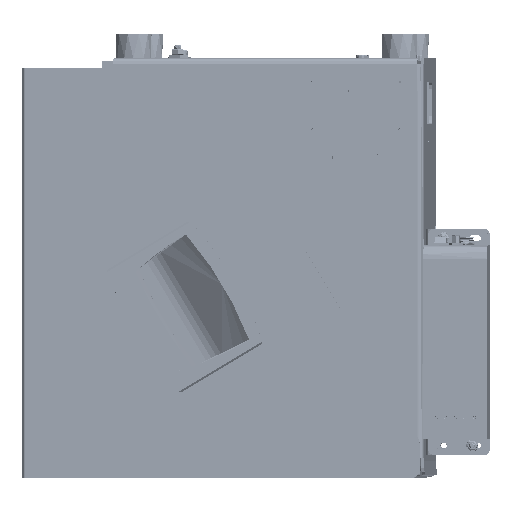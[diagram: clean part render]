
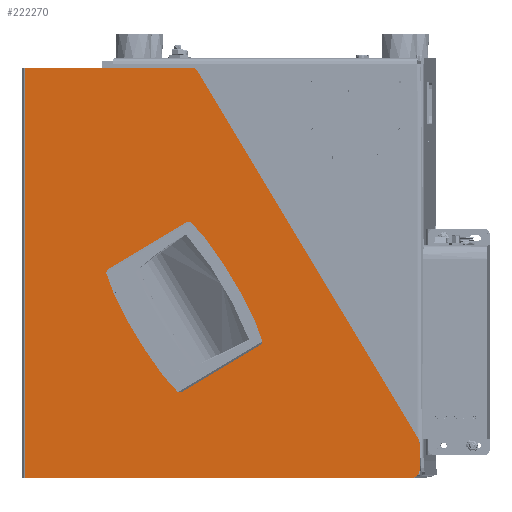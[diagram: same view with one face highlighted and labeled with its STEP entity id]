
A CAD part, front view. The second image highlights one B-rep face of the part: STEP entity #222270.
In plain terms, the highlighted planar face has unit normal (-0.023, -1, 0).
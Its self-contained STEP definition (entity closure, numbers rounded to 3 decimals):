
#22835=LINE('',#406528,#39462);
#22838=LINE('',#406535,#39465);
#22844=LINE('',#406555,#39471);
#22850=LINE('',#406570,#39477);
#22909=LINE('',#406738,#39536);
#23650=LINE('',#409365,#40277);
#23651=LINE('',#409369,#40278);
#23652=LINE('',#409373,#40279);
#23653=LINE('',#409377,#40280);
#23654=LINE('',#409381,#40281);
#23655=LINE('',#409384,#40282);
#39462=VECTOR('',#289261,1000.);
#39465=VECTOR('',#289266,1000.);
#39471=VECTOR('',#289286,1000.);
#39477=VECTOR('',#289300,1000.);
#39536=VECTOR('',#289433,10.);
#40277=VECTOR('',#291572,10.);
#40278=VECTOR('',#291575,10.);
#40279=VECTOR('',#291578,10.);
#40280=VECTOR('',#291581,10.);
#40281=VECTOR('',#291584,10.);
#40282=VECTOR('',#291587,10.);
#46094=FACE_BOUND('',#69420,.T.);
#56357=FACE_OUTER_BOUND('',#69419,.T.);
#69419=EDGE_LOOP('',(#186218,#186219,#186220,#186221,#186222,#186223,#186224,
#186225));
#69420=EDGE_LOOP('',(#186226,#186227,#186228,#186229,#186230,#186231,#186232,
#186233,#186234,#186235,#186236,#186237));
#78649=CIRCLE('',#239878,6.);
#78651=CIRCLE('',#239881,6.);
#78653=CIRCLE('',#239885,6.);
#78971=CIRCLE('',#240623,3.);
#78972=CIRCLE('',#240624,3.);
#78973=CIRCLE('',#240625,367.464);
#78974=CIRCLE('',#240626,3.);
#78975=CIRCLE('',#240627,3.);
#78976=CIRCLE('',#240628,367.464);
#97943=VERTEX_POINT('',#406525);
#97944=VERTEX_POINT('',#406527);
#97946=VERTEX_POINT('',#406533);
#97947=VERTEX_POINT('',#406534);
#97950=VERTEX_POINT('',#406542);
#97952=VERTEX_POINT('',#406548);
#97954=VERTEX_POINT('',#406554);
#97958=VERTEX_POINT('',#406564);
#98719=VERTEX_POINT('',#409361);
#98720=VERTEX_POINT('',#409362);
#98721=VERTEX_POINT('',#409364);
#98722=VERTEX_POINT('',#409366);
#98723=VERTEX_POINT('',#409368);
#98724=VERTEX_POINT('',#409370);
#98725=VERTEX_POINT('',#409372);
#98726=VERTEX_POINT('',#409374);
#98727=VERTEX_POINT('',#409376);
#98728=VERTEX_POINT('',#409378);
#98729=VERTEX_POINT('',#409380);
#98730=VERTEX_POINT('',#409382);
#127413=EDGE_CURVE('',#97943,#97944,#22835,.T.);
#127416=EDGE_CURVE('',#97946,#97947,#22838,.T.);
#127420=EDGE_CURVE('',#97950,#97946,#78649,.T.);
#127423=EDGE_CURVE('',#97943,#97952,#78651,.T.);
#127426=EDGE_CURVE('',#97952,#97954,#22844,.T.);
#127431=EDGE_CURVE('',#97954,#97958,#78653,.T.);
#127434=EDGE_CURVE('',#97958,#97950,#22850,.T.);
#127511=EDGE_CURVE('',#97944,#97947,#22909,.T.);
#128610=EDGE_CURVE('',#98719,#98720,#78971,.T.);
#128611=EDGE_CURVE('',#98720,#98721,#23650,.T.);
#128612=EDGE_CURVE('',#98721,#98722,#78972,.T.);
#128613=EDGE_CURVE('',#98722,#98723,#23651,.T.);
#128614=EDGE_CURVE('',#98723,#98724,#78973,.T.);
#128615=EDGE_CURVE('',#98724,#98725,#23652,.T.);
#128616=EDGE_CURVE('',#98725,#98726,#78974,.T.);
#128617=EDGE_CURVE('',#98726,#98727,#23653,.T.);
#128618=EDGE_CURVE('',#98727,#98728,#78975,.T.);
#128619=EDGE_CURVE('',#98728,#98729,#23654,.T.);
#128620=EDGE_CURVE('',#98729,#98730,#78976,.T.);
#128621=EDGE_CURVE('',#98730,#98719,#23655,.T.);
#186218=ORIENTED_EDGE('',*,*,#127511,.F.);
#186219=ORIENTED_EDGE('',*,*,#127413,.F.);
#186220=ORIENTED_EDGE('',*,*,#127423,.T.);
#186221=ORIENTED_EDGE('',*,*,#127426,.T.);
#186222=ORIENTED_EDGE('',*,*,#127431,.T.);
#186223=ORIENTED_EDGE('',*,*,#127434,.T.);
#186224=ORIENTED_EDGE('',*,*,#127420,.T.);
#186225=ORIENTED_EDGE('',*,*,#127416,.T.);
#186226=ORIENTED_EDGE('',*,*,#128610,.T.);
#186227=ORIENTED_EDGE('',*,*,#128611,.T.);
#186228=ORIENTED_EDGE('',*,*,#128612,.T.);
#186229=ORIENTED_EDGE('',*,*,#128613,.T.);
#186230=ORIENTED_EDGE('',*,*,#128614,.T.);
#186231=ORIENTED_EDGE('',*,*,#128615,.T.);
#186232=ORIENTED_EDGE('',*,*,#128616,.T.);
#186233=ORIENTED_EDGE('',*,*,#128617,.T.);
#186234=ORIENTED_EDGE('',*,*,#128618,.T.);
#186235=ORIENTED_EDGE('',*,*,#128619,.T.);
#186236=ORIENTED_EDGE('',*,*,#128620,.T.);
#186237=ORIENTED_EDGE('',*,*,#128621,.T.);
#201160=PLANE('',#240622);
#222270=ADVANCED_FACE('',(#56357,#46094),#201160,.T.);
#239878=AXIS2_PLACEMENT_3D('',#406543,#289272,#289273);
#239881=AXIS2_PLACEMENT_3D('',#406549,#289279,#289280);
#239885=AXIS2_PLACEMENT_3D('',#406565,#289293,#289294);
#240622=AXIS2_PLACEMENT_3D('',#409360,#291568,#291569);
#240623=AXIS2_PLACEMENT_3D('',#409363,#291570,#291571);
#240624=AXIS2_PLACEMENT_3D('',#409367,#291573,#291574);
#240625=AXIS2_PLACEMENT_3D('',#409371,#291576,#291577);
#240626=AXIS2_PLACEMENT_3D('',#409375,#291579,#291580);
#240627=AXIS2_PLACEMENT_3D('',#409379,#291582,#291583);
#240628=AXIS2_PLACEMENT_3D('',#409383,#291585,#291586);
#289261=DIRECTION('',(-1.,0.023,0.));
#289266=DIRECTION('',(-1.,0.023,0.));
#289272=DIRECTION('center_axis',(-0.023,-1.,
0.));
#289273=DIRECTION('ref_axis',(0.,0.,
-1.));
#289279=DIRECTION('center_axis',(-0.023,-1.,
0.));
#289280=DIRECTION('ref_axis',(0.,0.,
-1.));
#289286=DIRECTION('',(0.,0.,1.));
#289293=DIRECTION('center_axis',(-0.023,-1.,
0.));
#289294=DIRECTION('ref_axis',(0.,0.,
1.));
#289300=DIRECTION('',(-0.515,0.012,0.857));
#289433=DIRECTION('',(0.,0.,1.));
#291568=DIRECTION('center_axis',(-0.023,-1.,
0.));
#291569=DIRECTION('ref_axis',(0.,0.,
1.));
#291570=DIRECTION('center_axis',(0.023,1.,0.));
#291571=DIRECTION('ref_axis',(0.515,-0.012,-0.857));
#291572=DIRECTION('',(-0.857,0.02,-0.515));
#291573=DIRECTION('center_axis',(0.023,1.,0.));
#291574=DIRECTION('ref_axis',(0.515,-0.012,-0.857));
#291575=DIRECTION('',(-0.669,0.016,0.743));
#291576=DIRECTION('center_axis',(0.023,1.,0.));
#291577=DIRECTION('ref_axis',(0.515,-0.012,-0.857));
#291578=DIRECTION('',(-0.342,0.008,0.94));
#291579=DIRECTION('center_axis',(0.023,1.,0.));
#291580=DIRECTION('ref_axis',(0.515,-0.012,-0.857));
#291581=DIRECTION('',(0.857,-0.02,0.515));
#291582=DIRECTION('center_axis',(0.023,1.,0.));
#291583=DIRECTION('ref_axis',(0.515,-0.012,-0.857));
#291584=DIRECTION('',(0.669,-0.016,-0.743));
#291585=DIRECTION('center_axis',(0.023,1.,0.));
#291586=DIRECTION('ref_axis',(0.515,-0.012,-0.857));
#291587=DIRECTION('',(0.342,-0.008,-0.94));
#406525=CARTESIAN_POINT('',(78.075,-272.554,-349.5));
#406527=CARTESIAN_POINT('',(-246.336,-264.973,-349.5));
#406528=CARTESIAN_POINT('',(-149.269,-267.241,-349.5));
#406533=CARTESIAN_POINT('',(-107.269,-268.223,-5.5));
#406534=CARTESIAN_POINT('',(-246.336,-264.973,-5.5));
#406535=CARTESIAN_POINT('',(-149.269,-267.241,-5.5));
#406542=CARTESIAN_POINT('',(-102.127,-268.343,-8.41));
#406543=CARTESIAN_POINT('Origin',(-107.269,-268.223,-11.5));
#406548=CARTESIAN_POINT('',(84.074,-272.694,-343.5));
#406549=CARTESIAN_POINT('Origin',(78.075,-272.554,-343.5));
#406554=CARTESIAN_POINT('',(84.074,-272.694,-320.048));
#406555=CARTESIAN_POINT('',(84.074,-272.694,-5.5));
#406564=CARTESIAN_POINT('',(83.217,-272.674,-316.958));
#406565=CARTESIAN_POINT('Origin',(78.075,-272.554,-320.048));
#406570=CARTESIAN_POINT('',(83.217,-272.674,-316.958));
#406738=CARTESIAN_POINT('',(-246.336,-264.973,-5.5));
#409360=CARTESIAN_POINT('Origin',(-246.336,-264.973,-5.5));
#409361=CARTESIAN_POINT('',(-47.978,-269.608,-234.275));
#409362=CARTESIAN_POINT('',(-49.252,-269.579,-237.873));
#409363=CARTESIAN_POINT('Origin',(-50.796,-269.542,-235.301));
#409364=CARTESIAN_POINT('',(-115.252,-268.036,-277.54));
#409365=CARTESIAN_POINT('',(-103.375,-268.314,-270.402));
#409366=CARTESIAN_POINT('',(-119.025,-267.948,-276.976));
#409367=CARTESIAN_POINT('Origin',(-116.796,-268.,-274.969));
#409368=CARTESIAN_POINT('',(-130.565,-267.678,-264.156));
#409369=CARTESIAN_POINT('',(-220.775,-265.57,-163.941));
#409370=CARTESIAN_POINT('',(-172.414,-266.7,-194.489));
#409371=CARTESIAN_POINT('Origin',(161.471,-274.503,-41.225));
#409372=CARTESIAN_POINT('',(-178.313,-266.563,-178.278));
#409373=CARTESIAN_POINT('',(-210.049,-265.821,-91.06));
#409374=CARTESIAN_POINT('',(-177.039,-266.592,-174.68));
#409375=CARTESIAN_POINT('Origin',(-175.495,-266.628,-177.252));
#409376=CARTESIAN_POINT('',(-111.039,-268.135,-135.013));
#409377=CARTESIAN_POINT('',(-132.162,-267.641,-147.708));
#409378=CARTESIAN_POINT('',(-107.266,-268.223,-135.577));
#409379=CARTESIAN_POINT('Origin',(-109.495,-268.171,-137.584));
#409380=CARTESIAN_POINT('',(-95.725,-268.492,-148.397));
#409381=CARTESIAN_POINT('',(-164.961,-266.875,-71.482));
#409382=CARTESIAN_POINT('',(-53.877,-269.47,-218.064));
#409383=CARTESIAN_POINT('Origin',(-387.762,-261.668,-371.328));
#409384=CARTESIAN_POINT('',(-96.333,-268.478,-101.384));
